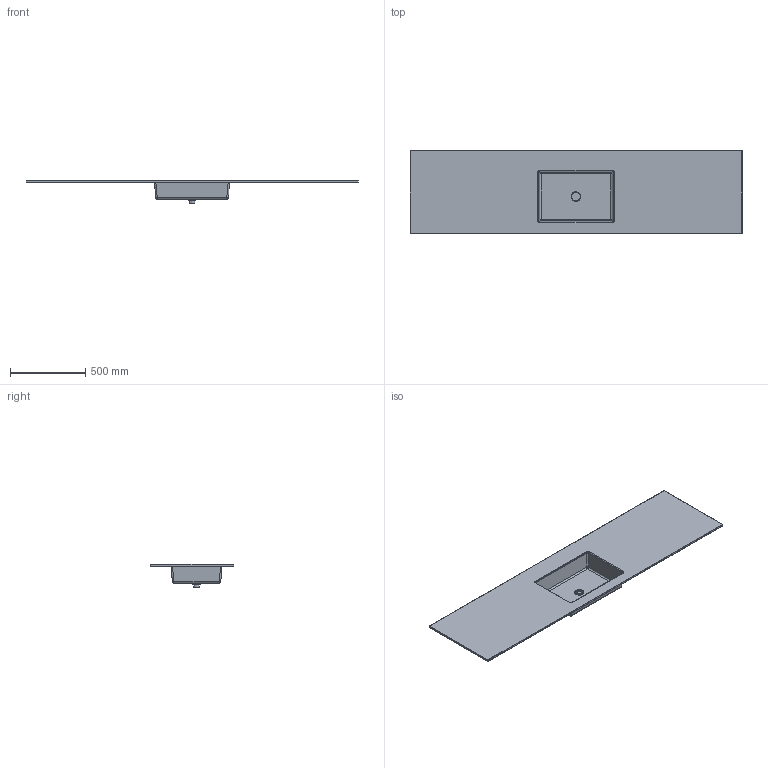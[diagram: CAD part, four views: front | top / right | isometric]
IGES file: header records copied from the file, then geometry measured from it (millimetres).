
Start section:  Autodesk Design for Windows version 2010 IGES version 5.3  Autodesk Design for Windows version 2010 IGES version 5.3
Global section: file name: Y:\X MICHELA\DESK 50\3D\MOMA DESIGN_PIANI LAVABO_DESK 50 MODULE.igs; native system: Rhinoceros ( Feb 23 2021 ); preprocessor: Trout Lake IGES 012 Feb 23 2021; date: 250324.111056; units: millimetre
Bounding box: 2200 x 550 x 154.12 mm (x, y, z)
Surface area: 2496311.2 mm2 (no closed solid volume)
Topology: 0 solids, 0 shells, 79 faces, 497 edges, 490 vertices
Faces by surface type: bspline 79
